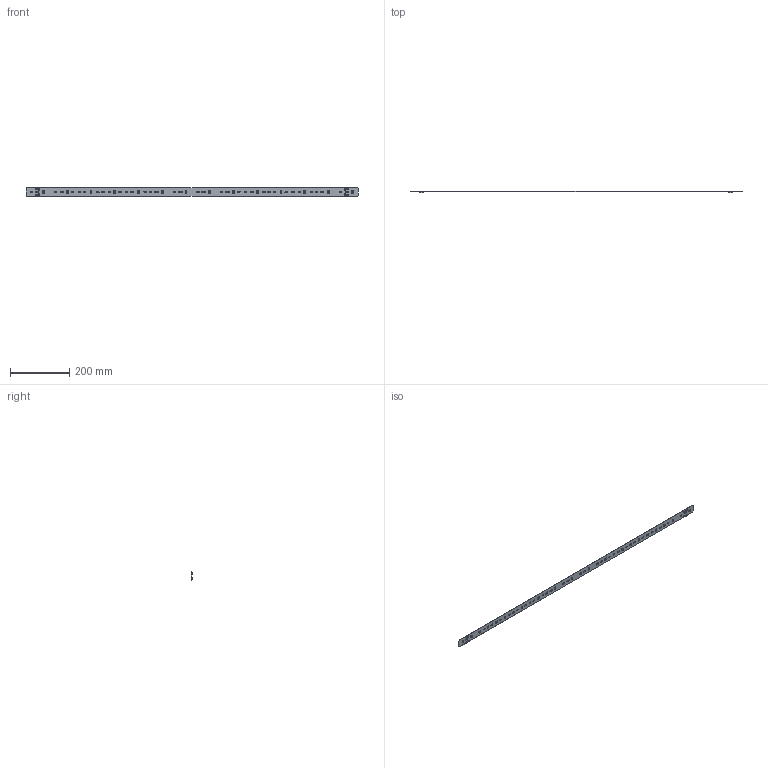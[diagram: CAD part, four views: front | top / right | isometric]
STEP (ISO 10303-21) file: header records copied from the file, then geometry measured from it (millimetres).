
FILE_DESCRIPTION(/* description */ ('Unknown'),/* implementation_level */ '2;1');
FILE_NAME(/* name */ 'LinLED 1120x28mm 42V FR-4 1.6mm DAISY 28x1 4C sh-000 2022-02-01',/* time_stamp */ '2022-02-01T11:03:28+01:00',/* author */ ('Unknown'),/* organization */ ('Unknown'),/* preprocessor_version */ 'ST-DEVELOPER v16.7',/* originating_system */ 'Solid Edge',/* authorisation */ 'Unknown');
FILE_SCHEMA (('AUTOMOTIVE_DESIGN {1 0 10303 214 3 1 1}'));
Products named in the file (1): LinLED 1120x28mm 42V FR-4 1.6mm DAISY 28x1 4C sh-000 2022-02-01
Bounding box: 1119 x 5.05 x 28 mm (x, y, z)
Volume: 50631.6 mm3; surface area: 68779.1 mm2
Topology: 1 solids, 1 shells, 5448 faces, 17046 edges, 11600 vertices
Faces by surface type: plane 3458, cylinder 1670, bspline 208, cone 60, sphere 32, torus 20
Full cylindrical faces by diameter (mm): 2.1 x13, 3.6 x9
Entity records: 235567 total; most frequent: CARTESIAN_POINT 46949, ORIENTED_EDGE 33952, DIRECTION 28542, EDGE_CURVE 16976, VERTEX_POINT 11588, LINE 11468, VECTOR 11468, AXIS2_PLACEMENT_3D 8537
